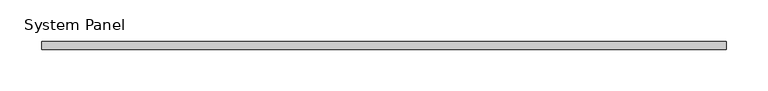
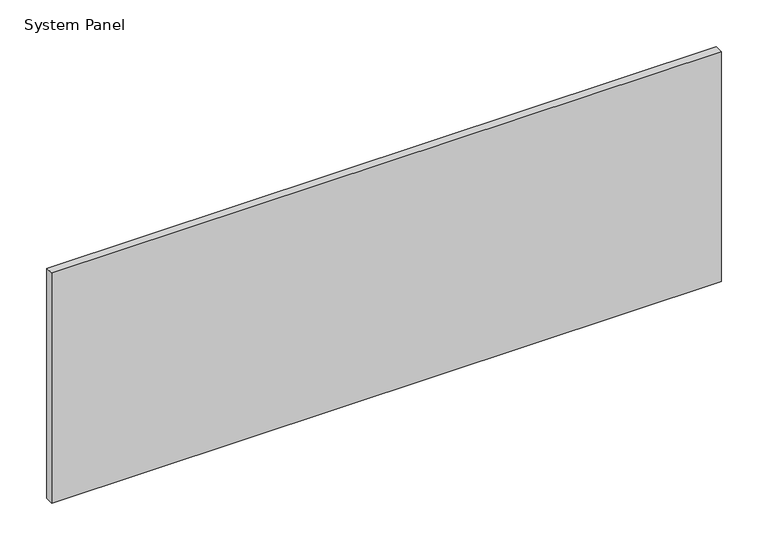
"""IFC4 building model written with IfcOpenShell, lengths in millimetres: plate geometry, System Panel : стекло_смещение_0."""

from ifc_helpers import new_model, si_unit, origin, origin_with_axes, place, context, project, spatial, polyline, outline, extrude, source, transform, mapped, element, save


def system_panel_a017d6d6(model_context):
    return source(origin(), model_context, "Body", "SweptSolid", [
        extrude(outline(polyline([(412.5, -5.0), (-412.5, -5.0), (-412.5, 5.0), (412.5, 5.0), (412.5, -5.0)])), origin_with_axes(), (0.0, 0.0, 1.0), 300.0),
    ])


if __name__ == "__main__":
    model = new_model("IFC4")
    model_context = context("Model", 3, world=origin())
    ifc_project = project(units=[si_unit("LENGTHUNIT", "METRE", prefix="MILLI")], contexts=[model_context])
    site = spatial("IfcSite", under=ifc_project)
    building = spatial("IfcBuilding", under=site)
    placement = place(None, origin())
    system_panel_shape = system_panel_a017d6d6(model_context)
    element("IfcPlate", 1, ObjectType="System Panel : стекло_смещение_0", at=placement, inside=building, context=model_context, shape_type="MappedRepresentation", body=[
        mapped(system_panel_shape, transform((0.0, 0.0, 0.0), x_axis=(1.0, 0.0, 0.0), y_axis=(0.0, 1.0, 0.0), z_axis=(0.0, 0.0, 1.0))),
    ])
    save(model, "model.ifc")
